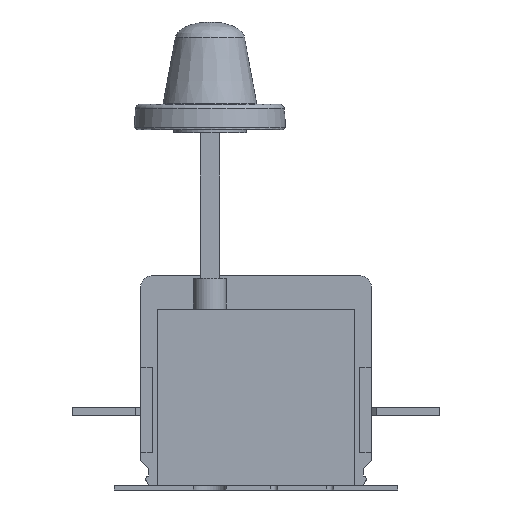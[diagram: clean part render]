
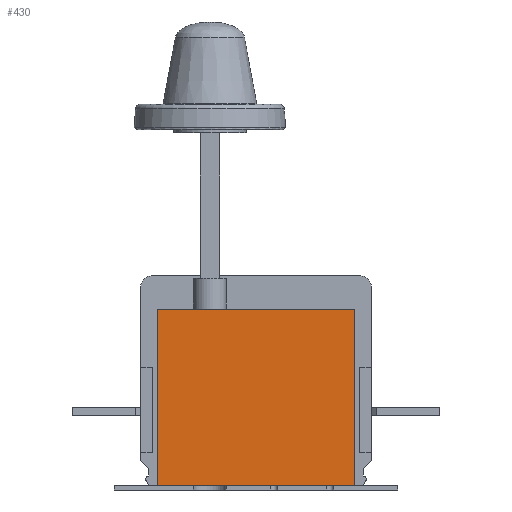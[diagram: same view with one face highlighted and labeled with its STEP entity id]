
A CAD part, left-side view. The second image highlights one B-rep face of the part: STEP entity #430.
In plain terms, the highlighted planar face has unit normal (-1, 0, 0).
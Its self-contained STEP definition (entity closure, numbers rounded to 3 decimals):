
#173 = CARTESIAN_POINT ( 'NONE',  ( -128.99, 0., 2.5 ) ) ;
#430 = ADVANCED_FACE ( 'NONE', ( #4070 ), #11197, .T. ) ;
#567 = CARTESIAN_POINT ( 'NONE',  ( -128.99, -60., 2.5 ) ) ;
#2092 = ORIENTED_EDGE ( 'NONE', *, *, #4308, .T. ) ;
#2162 = AXIS2_PLACEMENT_3D ( 'NONE', #12617, #4113, #14063 ) ;
#2549 = DIRECTION ( 'NONE',  ( 0., 0., -1. ) ) ;
#2787 = CARTESIAN_POINT ( 'NONE',  ( -128.99, -60., 130. ) ) ;
#4070 = FACE_OUTER_BOUND ( 'NONE', #5177, .T. ) ;
#4113 = DIRECTION ( 'NONE',  ( -1., 0., 0. ) ) ;
#4308 = EDGE_CURVE ( 'NONE', #12141, #14415, #15273, .T. ) ;
#4997 = CARTESIAN_POINT ( 'NONE',  ( -128.99, 60., 2.5 ) ) ;
#5177 = EDGE_LOOP ( 'NONE', ( #7588, #2092, #8686, #10007 ) ) ;
#6311 = EDGE_CURVE ( 'NONE', #10208, #7751, #18078, .T. ) ;
#6658 = CARTESIAN_POINT ( 'NONE',  ( -128.99, -60., 109.9 ) ) ;
#7588 = ORIENTED_EDGE ( 'NONE', *, *, #8400, .F. ) ;
#7751 = VERTEX_POINT ( 'NONE', #567 ) ;
#8400 = EDGE_CURVE ( 'NONE', #12141, #10208, #9767, .T. ) ;
#8686 = ORIENTED_EDGE ( 'NONE', *, *, #16698, .F. ) ;
#8861 = LINE ( 'NONE', #173, #12224 ) ;
#8994 = VECTOR ( 'NONE', #2549, 1000. ) ;
#9647 = CARTESIAN_POINT ( 'NONE',  ( -128.99, 60., 130. ) ) ;
#9767 = LINE ( 'NONE', #16141, #16908 ) ;
#10007 = ORIENTED_EDGE ( 'NONE', *, *, #6311, .F. ) ;
#10208 = VERTEX_POINT ( 'NONE', #6658 ) ;
#10304 = DIRECTION ( 'NONE',  ( 0., 1., 0. ) ) ;
#11197 = PLANE ( 'NONE',  #2162 ) ;
#12141 = VERTEX_POINT ( 'NONE', #15442 ) ;
#12224 = VECTOR ( 'NONE', #10304, 1000. ) ;
#12525 = VECTOR ( 'NONE', #14642, 1000. ) ;
#12617 = CARTESIAN_POINT ( 'NONE',  ( -128.99, 0., 130. ) ) ;
#13362 = DIRECTION ( 'NONE',  ( 0., -1., 0. ) ) ;
#14063 = DIRECTION ( 'NONE',  ( 0., -1., 0. ) ) ;
#14415 = VERTEX_POINT ( 'NONE', #4997 ) ;
#14642 = DIRECTION ( 'NONE',  ( 0., 0., -1. ) ) ;
#15273 = LINE ( 'NONE', #9647, #8994 ) ;
#15442 = CARTESIAN_POINT ( 'NONE',  ( -128.99, 60., 109.9 ) ) ;
#16141 = CARTESIAN_POINT ( 'NONE',  ( -128.99, 70., 109.9 ) ) ;
#16698 = EDGE_CURVE ( 'NONE', #7751, #14415, #8861, .T. ) ;
#16908 = VECTOR ( 'NONE', #13362, 1000. ) ;
#18078 = LINE ( 'NONE', #2787, #12525 ) ;
